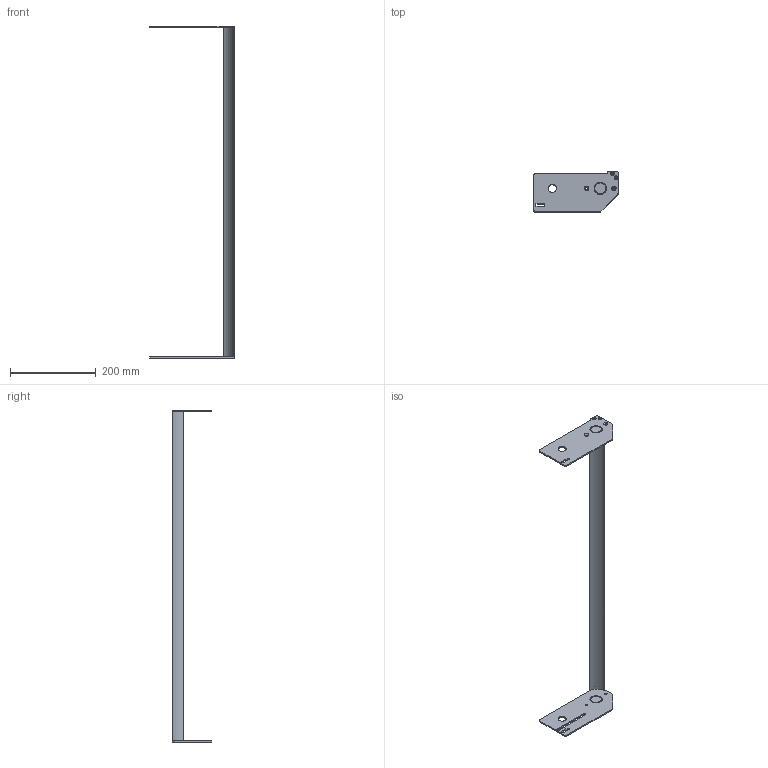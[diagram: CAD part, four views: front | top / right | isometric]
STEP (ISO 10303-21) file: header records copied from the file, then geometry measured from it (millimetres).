
FILE_DESCRIPTION (( 'STEP AP203' ), '1' );
FILE_NAME ('351040-30.STEP', '2017-06-20T13:14:50', ( '' ), ( '' ), 'SwSTEP 2.0', 'SolidWorks 2017', '' );
FILE_SCHEMA (( 'CONFIG_CONTROL_DESIGN' ));
Length unit declared in the file: inch
Products named in the file (5): 350539-WW_350539-30; 350538; 351040-30; 9304XXM_930410M; 350537
Assembly tree (7 placements, depth 2):
  351040-30
    350539-WW_350539-30
    350537
    350538
    9304XXM_930410M  x4
Bounding box: 196.06 x 92.74 x 774.34 mm (x, y, z)
Volume: 316176.9 mm3; surface area: 154799.9 mm2
Topology: 7 solids, 7 shells, 216 faces, 518 edges, 316 vertices
Faces by surface type: cylinder 80, plane 76, cone 60
Entity records: 5278 total; most frequent: CARTESIAN_POINT 882, DIRECTION 841, ORIENTED_EDGE 766, EDGE_CURVE 383, AXIS2_PLACEMENT_3D 317, VERTEX_POINT 244, VECTOR 207, LINE 207
